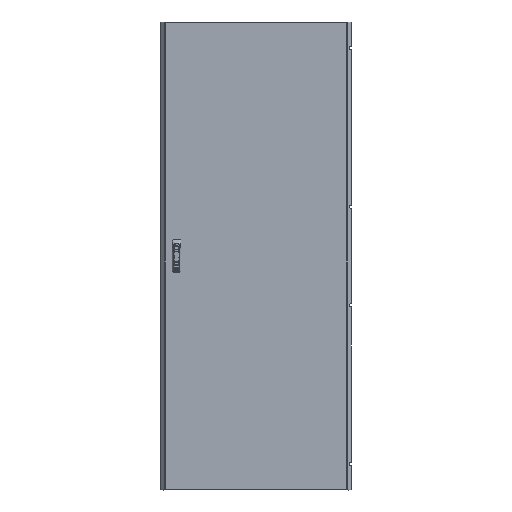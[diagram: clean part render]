
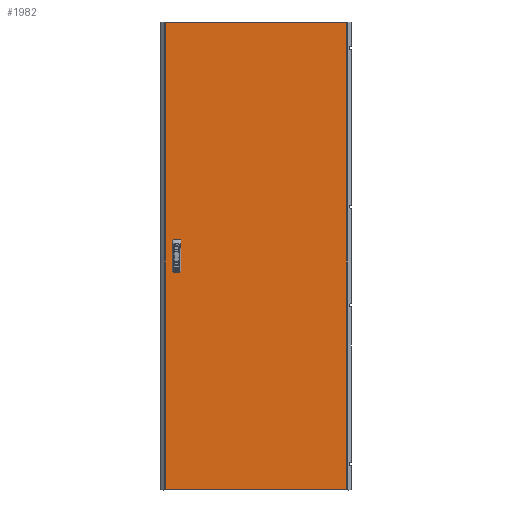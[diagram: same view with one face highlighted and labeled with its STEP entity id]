
A CAD part, top view. The second image highlights one B-rep face of the part: STEP entity #1982.
In plain terms, the highlighted planar face has unit normal (0, 0, 1).
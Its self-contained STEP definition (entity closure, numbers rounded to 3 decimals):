
#1288 = CARTESIAN_POINT ( 'NONE',  ( -317.5, 62.5, 0. ) ) ;
#1982 = ADVANCED_FACE ( 'NONE', ( #128231, #96931, #19509 ), #21595, .F. ) ;
#3949 = EDGE_CURVE ( 'NONE', #127292, #48590, #39415, .T. ) ;
#4622 = DIRECTION ( 'NONE',  ( 0., -1., 0. ) ) ;
#5070 = VECTOR ( 'NONE', #35219, 1000. ) ;
#7254 = LINE ( 'NONE', #136643, #120961 ) ;
#8202 = CARTESIAN_POINT ( 'NONE',  ( -317.5, -12.5, 0. ) ) ;
#8254 = EDGE_CURVE ( 'NONE', #9993, #127292, #85319, .T. ) ;
#8764 = VERTEX_POINT ( 'NONE', #115424 ) ;
#9993 = VERTEX_POINT ( 'NONE', #94799 ) ;
#12926 = VECTOR ( 'NONE', #64682, 1000. ) ;
#13503 = CARTESIAN_POINT ( 'NONE',  ( -342.5, 12.5, 0. ) ) ;
#18091 = CARTESIAN_POINT ( 'NONE',  ( -342.5, -62.5, 0. ) ) ;
#18638 = DIRECTION ( 'NONE',  ( 0., 1., 0. ) ) ;
#19509 = FACE_OUTER_BOUND ( 'NONE', #96747, .T. ) ;
#20353 = CARTESIAN_POINT ( 'NONE',  ( -342.5, -12.5, 0. ) ) ;
#21595 = PLANE ( 'NONE',  #66215 ) ;
#22051 = DIRECTION ( 'NONE',  ( 0., -1., 0. ) ) ;
#23515 = EDGE_CURVE ( 'NONE', #51383, #50926, #25535, .T. ) ;
#25535 = LINE ( 'NONE', #132894, #132546 ) ;
#25637 = ORIENTED_EDGE ( 'NONE', *, *, #130447, .F. ) ;
#26518 = EDGE_LOOP ( 'NONE', ( #34878, #67144, #81685, #72558 ) ) ;
#28228 = VECTOR ( 'NONE', #63722, 1000. ) ;
#28564 = VECTOR ( 'NONE', #71933, 1000. ) ;
#29589 = VECTOR ( 'NONE', #22051, 1000. ) ;
#29966 = LINE ( 'NONE', #82579, #28564 ) ;
#32258 = ORIENTED_EDGE ( 'NONE', *, *, #60471, .F. ) ;
#34878 = ORIENTED_EDGE ( 'NONE', *, *, #46915, .F. ) ;
#35219 = DIRECTION ( 'NONE',  ( -1., 0., 0. ) ) ;
#35401 = CARTESIAN_POINT ( 'NONE',  ( 377.875, -969.5, 0. ) ) ;
#36884 = CARTESIAN_POINT ( 'NONE',  ( 377.875, 969.5, 0. ) ) ;
#38496 = EDGE_CURVE ( 'NONE', #8764, #49181, #29966, .T. ) ;
#39415 = LINE ( 'NONE', #18091, #91305 ) ;
#42939 = CARTESIAN_POINT ( 'NONE',  ( 0., 0., 0. ) ) ;
#43275 = CARTESIAN_POINT ( 'NONE',  ( -342.5, 62.5, 0. ) ) ;
#46915 = EDGE_CURVE ( 'NONE', #102020, #9993, #107058, .T. ) ;
#48590 = VERTEX_POINT ( 'NONE', #87647 ) ;
#49181 = VERTEX_POINT ( 'NONE', #35401 ) ;
#50926 = VERTEX_POINT ( 'NONE', #140369 ) ;
#51383 = VERTEX_POINT ( 'NONE', #36884 ) ;
#53535 = VECTOR ( 'NONE', #98554, 1000. ) ;
#57446 = ORIENTED_EDGE ( 'NONE', *, *, #38496, .T. ) ;
#57929 = ORIENTED_EDGE ( 'NONE', *, *, #76326, .T. ) ;
#58692 = LINE ( 'NONE', #102030, #64151 ) ;
#59022 = ORIENTED_EDGE ( 'NONE', *, *, #23515, .T. ) ;
#60471 = EDGE_CURVE ( 'NONE', #103539, #136741, #132615, .T. ) ;
#60484 = EDGE_CURVE ( 'NONE', #50926, #8764, #58692, .T. ) ;
#60964 = EDGE_CURVE ( 'NONE', #48590, #102020, #7254, .T. ) ;
#61161 = VERTEX_POINT ( 'NONE', #96047 ) ;
#62617 = DIRECTION ( 'NONE',  ( 0., 1., 0. ) ) ;
#63722 = DIRECTION ( 'NONE',  ( -1., 0., 0. ) ) ;
#64151 = VECTOR ( 'NONE', #4622, 1000. ) ;
#64682 = DIRECTION ( 'NONE',  ( 1., 0., 0. ) ) ;
#66120 = EDGE_LOOP ( 'NONE', ( #32258, #25637, #121818, #136584 ) ) ;
#66215 = AXIS2_PLACEMENT_3D ( 'NONE', #42939, #86274, #116184 ) ;
#66575 = CARTESIAN_POINT ( 'NONE',  ( -317.5, 12.5, 0. ) ) ;
#67144 = ORIENTED_EDGE ( 'NONE', *, *, #60964, .F. ) ;
#68918 = DIRECTION ( 'NONE',  ( -1., 0., 0. ) ) ;
#71339 = DIRECTION ( 'NONE',  ( 0., -1., 0. ) ) ;
#71933 = DIRECTION ( 'NONE',  ( 1., 0., 0. ) ) ;
#72558 = ORIENTED_EDGE ( 'NONE', *, *, #8254, .F. ) ;
#76326 = EDGE_CURVE ( 'NONE', #49181, #51383, #84630, .T. ) ;
#76379 = EDGE_CURVE ( 'NONE', #136741, #61161, #132912, .T. ) ;
#81685 = ORIENTED_EDGE ( 'NONE', *, *, #3949, .F. ) ;
#82579 = CARTESIAN_POINT ( 'NONE',  ( -377.875, -969.5, 0. ) ) ;
#84630 = LINE ( 'NONE', #93879, #115839 ) ;
#85319 = LINE ( 'NONE', #125341, #134035 ) ;
#86274 = DIRECTION ( 'NONE',  ( 0., 0., -1. ) ) ;
#87647 = CARTESIAN_POINT ( 'NONE',  ( -317.5, -62.5, 0. ) ) ;
#91305 = VECTOR ( 'NONE', #92714, 1000. ) ;
#92714 = DIRECTION ( 'NONE',  ( 1., 0., 0. ) ) ;
#93879 = CARTESIAN_POINT ( 'NONE',  ( 377.875, -969.5, 0. ) ) ;
#94799 = CARTESIAN_POINT ( 'NONE',  ( -342.5, -12.5, 0. ) ) ;
#96047 = CARTESIAN_POINT ( 'NONE',  ( -342.5, 12.5, 0. ) ) ;
#96747 = EDGE_LOOP ( 'NONE', ( #57929, #59022, #138836, #57446 ) ) ;
#96931 = FACE_BOUND ( 'NONE', #26518, .T. ) ;
#98554 = DIRECTION ( 'NONE',  ( 0., 1., 0. ) ) ;
#101324 = CARTESIAN_POINT ( 'NONE',  ( -342.5, 62.5, 0. ) ) ;
#102020 = VERTEX_POINT ( 'NONE', #8202 ) ;
#102030 = CARTESIAN_POINT ( 'NONE',  ( -377.875, -969.5, 0. ) ) ;
#103539 = VERTEX_POINT ( 'NONE', #1288 ) ;
#107058 = LINE ( 'NONE', #20353, #28228 ) ;
#108733 = LINE ( 'NONE', #118683, #12926 ) ;
#114330 = CARTESIAN_POINT ( 'NONE',  ( -317.5, 12.5, 0. ) ) ;
#115424 = CARTESIAN_POINT ( 'NONE',  ( -377.875, -969.5, 0. ) ) ;
#115839 = VECTOR ( 'NONE', #62617, 1000. ) ;
#116184 = DIRECTION ( 'NONE',  ( -1., 0., 0. ) ) ;
#118683 = CARTESIAN_POINT ( 'NONE',  ( -342.5, 12.5, 0. ) ) ;
#120571 = VERTEX_POINT ( 'NONE', #114330 ) ;
#120961 = VECTOR ( 'NONE', #18638, 1000. ) ;
#121818 = ORIENTED_EDGE ( 'NONE', *, *, #134085, .F. ) ;
#122755 = CARTESIAN_POINT ( 'NONE',  ( -342.5, -62.5, 0. ) ) ;
#125341 = CARTESIAN_POINT ( 'NONE',  ( -342.5, -62.5, 0. ) ) ;
#127292 = VERTEX_POINT ( 'NONE', #122755 ) ;
#128231 = FACE_BOUND ( 'NONE', #66120, .T. ) ;
#130447 = EDGE_CURVE ( 'NONE', #120571, #103539, #131953, .T. ) ;
#131953 = LINE ( 'NONE', #66575, #53535 ) ;
#132546 = VECTOR ( 'NONE', #68918, 1000. ) ;
#132615 = LINE ( 'NONE', #101324, #5070 ) ;
#132894 = CARTESIAN_POINT ( 'NONE',  ( -377.875, 969.5, 0. ) ) ;
#132912 = LINE ( 'NONE', #13503, #29589 ) ;
#134035 = VECTOR ( 'NONE', #71339, 1000. ) ;
#134085 = EDGE_CURVE ( 'NONE', #61161, #120571, #108733, .T. ) ;
#136584 = ORIENTED_EDGE ( 'NONE', *, *, #76379, .F. ) ;
#136643 = CARTESIAN_POINT ( 'NONE',  ( -317.5, -62.5, 0. ) ) ;
#136741 = VERTEX_POINT ( 'NONE', #43275 ) ;
#138836 = ORIENTED_EDGE ( 'NONE', *, *, #60484, .T. ) ;
#140369 = CARTESIAN_POINT ( 'NONE',  ( -377.875, 969.5, 0. ) ) ;
